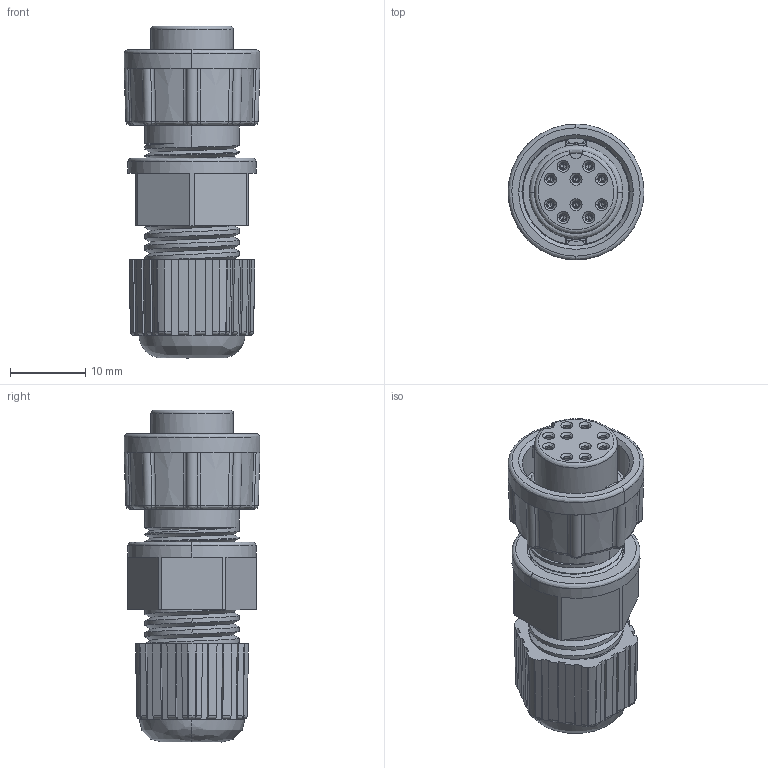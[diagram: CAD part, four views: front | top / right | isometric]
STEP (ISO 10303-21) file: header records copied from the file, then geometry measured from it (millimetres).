
FILE_DESCRIPTION (( 'STEP AP203' ), '1' );
FILE_NAME ('868-010-203KIT.STEP', '2024-06-13T20:36:11', ( '' ), ( '' ), 'SwSTEP 2.0', 'SolidWorks 2020', '' );
FILE_SCHEMA (( 'CONFIG_CONTROL_DESIGN' ));
Length unit declared in the file: millimetre
Products named in the file (1): 868-010-203KIT
Bounding box: 18 x 18 x 44 mm (x, y, z)
Volume: 5723.7 mm3; surface area: 7820.1 mm2
Topology: 1 solids, 1 shells, 832 faces, 2206 edges, 1383 vertices
Faces by surface type: plane 297, cylinder 260, cone 182, bspline 93
Entity records: 44729 total; most frequent: CARTESIAN_POINT 25606, ORIENTED_EDGE 4332, DIRECTION 3544, EDGE_CURVE 2166, AXIS2_PLACEMENT_3D 1412, VERTEX_POINT 1383, EDGE_LOOP 885, FACE_OUTER_BOUND 832
